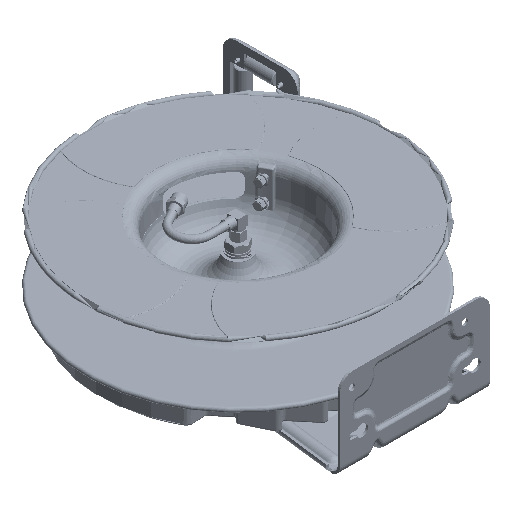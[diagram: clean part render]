
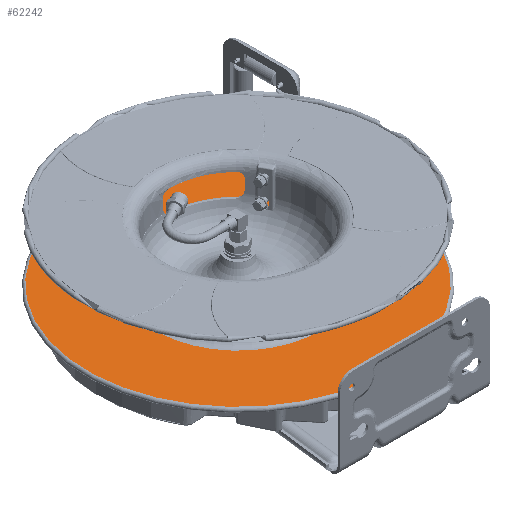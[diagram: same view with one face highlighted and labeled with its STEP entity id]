
A CAD part, isometric view. The second image highlights one B-rep face of the part: STEP entity #62242.
In plain terms, the highlighted planar face has unit normal (0, 0, 1) as drawn and (0, 0, -1) by its records, which use the part's own axes.
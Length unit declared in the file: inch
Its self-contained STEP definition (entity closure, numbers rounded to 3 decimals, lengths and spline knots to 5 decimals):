
#46824=CARTESIAN_POINT('',(0.,0.,1.48166));
#46825=DIRECTION('',(0.,0.,-1.));
#46826=DIRECTION('',(0.,1.,0.));
#46827=AXIS2_PLACEMENT_3D('',#46824,#46825,#46826);
#46829=CARTESIAN_POINT('',(0.,0.,1.48166));
#46830=DIRECTION('',(0.,0.,-1.));
#46831=DIRECTION('',(0.,-1.,0.));
#46832=AXIS2_PLACEMENT_3D('',#46829,#46830,#46831);
#46834=CARTESIAN_POINT('',(-5.3899,4.00233,
1.48166));
#46835=DIRECTION('',(0.,0.,1.));
#46836=DIRECTION('',(0.325,-0.946,0.));
#46837=AXIS2_PLACEMENT_3D('',#46834,#46835,#46836);
#46839=CARTESIAN_POINT('',(-5.3899,4.00233,
1.48166));
#46840=DIRECTION('',(0.,0.,1.));
#46841=DIRECTION('',(-0.325,0.946,0.));
#46842=AXIS2_PLACEMENT_3D('',#46839,#46840,#46841);
#46844=CARTESIAN_POINT('',(0.,0.,1.48166));
#46845=DIRECTION('',(0.,0.,1.));
#46846=DIRECTION('',(0.,1.,0.));
#46847=AXIS2_PLACEMENT_3D('',#46844,#46845,#46846);
#46859=CARTESIAN_POINT('',(0.,0.,1.48166));
#46860=DIRECTION('',(0.,0.,-1.));
#46861=DIRECTION('',(0.,1.,0.));
#46862=AXIS2_PLACEMENT_3D('',#46859,#46860,#46861);
#60623=CARTESIAN_POINT('',(0.,4.35484,1.48166));
#60625=VERTEX_POINT('',#60623);
#60627=CARTESIAN_POINT('',(0.,-4.35484,1.48166));
#60629=VERTEX_POINT('',#60627);
#60637=CARTESIAN_POINT('',(0.,8.02,1.48166));
#60638=CARTESIAN_POINT('',(0.,-8.02,1.48166));
#60639=VERTEX_POINT('',#60637);
#60640=VERTEX_POINT('',#60638);
#61212=CARTESIAN_POINT('',(-5.30862,3.76581,
1.48166));
#61213=CARTESIAN_POINT('',(-5.47119,4.23885,
1.48166));
#61214=VERTEX_POINT('',#61212);
#61215=VERTEX_POINT('',#61213);
#62219=CARTESIAN_POINT('',(0.,0.,1.48166));
#62220=DIRECTION('',(0.,0.,1.));
#62221=DIRECTION('',(0.,-1.,0.));
#62222=AXIS2_PLACEMENT_3D('',#62219,#62220,#62221);
#62223=PLANE('',#62222);
#62225=ORIENTED_EDGE('',*,*,#62224,.F.);
#62227=ORIENTED_EDGE('',*,*,#62226,.F.);
#62228=EDGE_LOOP('',(#62225,#62227));
#62229=FACE_OUTER_BOUND('',#62228,.F.);
#62231=ORIENTED_EDGE('',*,*,#62230,.F.);
#62233=ORIENTED_EDGE('',*,*,#62232,.T.);
#62234=EDGE_LOOP('',(#62231,#62233));
#62235=FACE_BOUND('',#62234,.F.);
#62237=ORIENTED_EDGE('',*,*,#62236,.F.);
#62239=ORIENTED_EDGE('',*,*,#62238,.F.);
#62240=EDGE_LOOP('',(#62237,#62239));
#62241=FACE_BOUND('',#62240,.F.);
#62242=ADVANCED_FACE('',(#62229,#62235,#62241),#62223,.F.);
#46828=CIRCLE('',#46827,8.02);
#46833=CIRCLE('',#46832,8.02);
#46838=CIRCLE('',#46837,0.2501);
#46843=CIRCLE('',#46842,0.2501);
#46848=CIRCLE('',#46847,4.35484);
#46863=CIRCLE('',#46862,4.35484);
#62224=EDGE_CURVE('',#60639,#60640,#46828,.T.);
#62226=EDGE_CURVE('',#60640,#60639,#46833,.T.);
#62230=EDGE_CURVE('',#60625,#60629,#46848,.T.);
#62232=EDGE_CURVE('',#60625,#60629,#46863,.T.);
#62236=EDGE_CURVE('',#61214,#61215,#46838,.T.);
#62238=EDGE_CURVE('',#61215,#61214,#46843,.T.);
